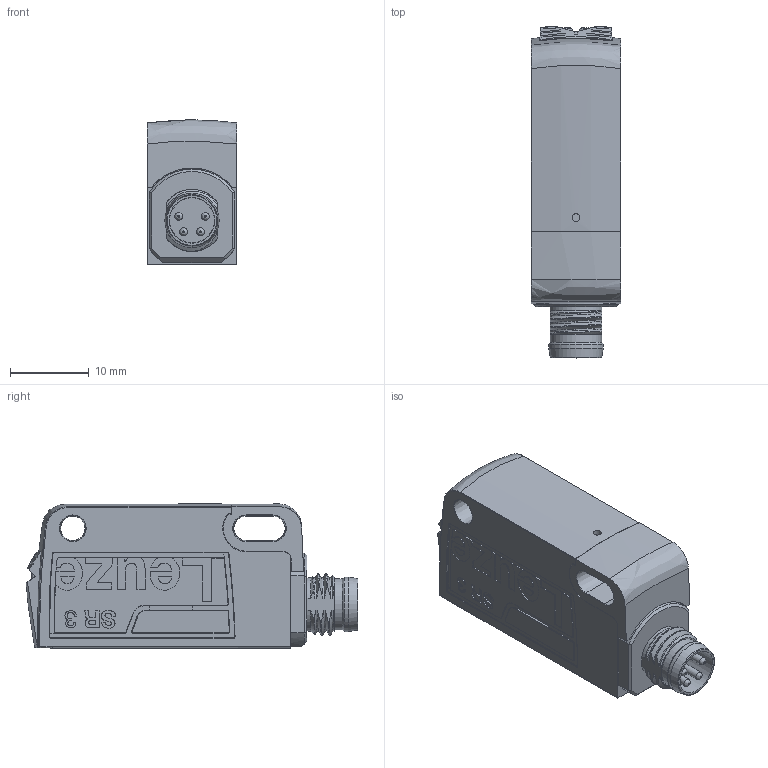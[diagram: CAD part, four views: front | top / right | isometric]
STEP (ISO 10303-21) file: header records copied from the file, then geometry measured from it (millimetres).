
FILE_DESCRIPTION(/* description */ (''),/* implementation_level */ '2;1');
FILE_NAME(/* name */ '3DCAD_BR3C_M8_slot.stp',/* time_stamp */ '2016-02-05T14:37:30+01:00',/* author */ ('CC2'),/* organization */ ('Leuze electronic'),/* preprocessor_version */ 'ST-DEVELOPER v15',/* originating_system */ 'SIEMENS PLM Software NX 8.5',/* authorisation */ '');
FILE_SCHEMA (('AUTOMOTIVE_DESIGN { 1 0 10303 214 3 1 1 1 }'));
Length unit declared in the file: millimetre
Products named in the file (1): 008412_00.0
Bounding box: 11.4 x 42.14 x 18.3 mm (x, y, z)
Surface area: 3467.1 mm2
Topology: 1 solids, 2 shells, 530 faces, 1408 edges, 897 vertices
Faces by surface type: plane 204, cylinder 137, bspline 64, extrusion 52, torus 39, cone 22, sphere 8, revolution 4
Full cylindrical faces by diameter (mm): 1 x5, 4.85 x1, 5.1 x1, 5.8 x1, 6.5 x1, 6.9 x1
Entity records: 21789 total; most frequent: CARTESIAN_POINT 8024, ORIENTED_EDGE 2730, DIRECTION 2353, EDGE_CURVE 1365, VERTEX_POINT 881, AXIS2_PLACEMENT_3D 814, VECTOR 721, LINE 668
